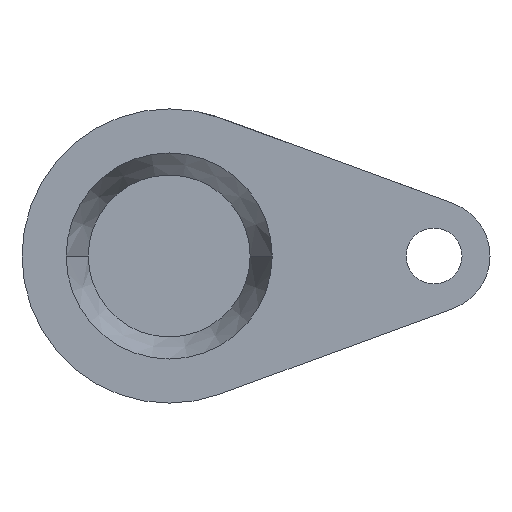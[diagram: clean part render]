
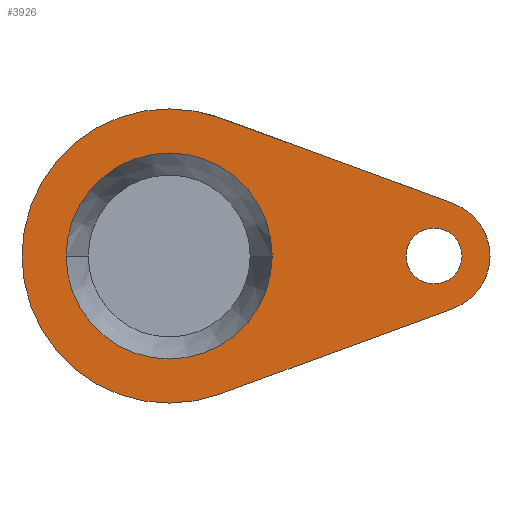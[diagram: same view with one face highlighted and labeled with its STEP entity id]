
A CAD part, front view. The second image highlights one B-rep face of the part: STEP entity #3926.
In plain terms, the highlighted planar face has unit normal (0, -1, 0).
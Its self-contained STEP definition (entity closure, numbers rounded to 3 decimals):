
#42 = EDGE_CURVE ( 'NONE', #4026, #1022, #3928, .T. ) ;
#179 = EDGE_CURVE ( 'NONE', #1838, #1468, #3019, .T. ) ;
#205 = DIRECTION ( 'NONE',  ( 0., 1., 0. ) ) ;
#231 = CARTESIAN_POINT ( 'NONE',  ( -35., -33., 0. ) ) ;
#267 = CARTESIAN_POINT ( 'NONE',  ( 99.5, -33., 0. ) ) ;
#280 = VERTEX_POINT ( 'NONE', #4030 ) ;
#308 = ORIENTED_EDGE ( 'NONE', *, *, #2333, .F. ) ;
#379 = DIRECTION ( 'NONE',  ( -1., 0., 0. ) ) ;
#384 = AXIS2_PLACEMENT_3D ( 'NONE', #3542, #512, #1684 ) ;
#396 = EDGE_CURVE ( 'NONE', #1022, #2118, #2707, .T. ) ;
#418 = DIRECTION ( 'NONE',  ( -1., 0., 0. ) ) ;
#442 = CARTESIAN_POINT ( 'NONE',  ( 17.222, -33., 46.94 ) ) ;
#512 = DIRECTION ( 'NONE',  ( 0., 1., 0. ) ) ;
#696 = CIRCLE ( 'NONE', #1249, 50. ) ;
#769 = ORIENTED_EDGE ( 'NONE', *, *, #1006, .T. ) ;
#785 = DIRECTION ( 'NONE',  ( 0., 1., 0. ) ) ;
#926 = EDGE_LOOP ( 'NONE', ( #951, #308, #4242, #3084, #4090 ) ) ;
#951 = ORIENTED_EDGE ( 'NONE', *, *, #3503, .T. ) ;
#999 = DIRECTION ( 'NONE',  ( -1., 0., 0. ) ) ;
#1006 = EDGE_CURVE ( 'NONE', #4704, #1281, #1914, .T. ) ;
#1022 = VERTEX_POINT ( 'NONE', #1669 ) ;
#1249 = AXIS2_PLACEMENT_3D ( 'NONE', #3037, #2367, #3854 ) ;
#1281 = VERTEX_POINT ( 'NONE', #1791 ) ;
#1353 = DIRECTION ( 'NONE',  ( -0.939, 0., -0.344 ) ) ;
#1398 = CIRCLE ( 'NONE', #384, 19. ) ;
#1468 = VERTEX_POINT ( 'NONE', #231 ) ;
#1514 = CARTESIAN_POINT ( 'NONE',  ( 35., -33., 0. ) ) ;
#1611 = EDGE_CURVE ( 'NONE', #1468, #1838, #1648, .T. ) ;
#1648 = CIRCLE ( 'NONE', #4375, 35. ) ;
#1669 = CARTESIAN_POINT ( 'NONE',  ( 96.544, -33., 17.837 ) ) ;
#1684 = DIRECTION ( 'NONE',  ( -1., 0., 0. ) ) ;
#1791 = CARTESIAN_POINT ( 'NONE',  ( 80.5, -33., 0. ) ) ;
#1838 = VERTEX_POINT ( 'NONE', #1514 ) ;
#1841 = AXIS2_PLACEMENT_3D ( 'NONE', #1843, #3982, #4718 ) ;
#1843 = CARTESIAN_POINT ( 'NONE',  ( 50., -33., 0. ) ) ;
#1914 = CIRCLE ( 'NONE', #3924, 9.5 ) ;
#2024 = AXIS2_PLACEMENT_3D ( 'NONE', #4811, #785, #379 ) ;
#2025 = EDGE_LOOP ( 'NONE', ( #2630, #4658 ) ) ;
#2077 = ORIENTED_EDGE ( 'NONE', *, *, #2908, .T. ) ;
#2103 = FACE_BOUND ( 'NONE', #4227, .T. ) ;
#2118 = VERTEX_POINT ( 'NONE', #3547 ) ;
#2142 = AXIS2_PLACEMENT_3D ( 'NONE', #4458, #4853, #418 ) ;
#2333 = EDGE_CURVE ( 'NONE', #3104, #280, #4697, .T. ) ;
#2367 = DIRECTION ( 'NONE',  ( 0., -1., 0. ) ) ;
#2392 = CARTESIAN_POINT ( 'NONE',  ( 0., -33., 0. ) ) ;
#2409 = CARTESIAN_POINT ( 'NONE',  ( 17.222, -33., -46.94 ) ) ;
#2410 = DIRECTION ( 'NONE',  ( 0., 1., 0. ) ) ;
#2423 = DIRECTION ( 'NONE',  ( 0.939, 0., -0.344 ) ) ;
#2502 = FACE_BOUND ( 'NONE', #2025, .T. ) ;
#2595 = VECTOR ( 'NONE', #1353, 1000. ) ;
#2630 = ORIENTED_EDGE ( 'NONE', *, *, #179, .T. ) ;
#2707 = CIRCLE ( 'NONE', #2142, 19. ) ;
#2735 = CIRCLE ( 'NONE', #2024, 9.5 ) ;
#2907 = CARTESIAN_POINT ( 'NONE',  ( 0., -33., 0. ) ) ;
#2908 = EDGE_CURVE ( 'NONE', #1281, #4704, #2735, .T. ) ;
#2917 = CARTESIAN_POINT ( 'NONE',  ( 96.544, -33., -17.837 ) ) ;
#3019 = CIRCLE ( 'NONE', #4570, 35. ) ;
#3037 = CARTESIAN_POINT ( 'NONE',  ( 0., -33., 0. ) ) ;
#3084 = ORIENTED_EDGE ( 'NONE', *, *, #396, .F. ) ;
#3104 = VERTEX_POINT ( 'NONE', #2917 ) ;
#3190 = EDGE_CURVE ( 'NONE', #2118, #3104, #1398, .T. ) ;
#3278 = PLANE ( 'NONE',  #1841 ) ;
#3406 = DIRECTION ( 'NONE',  ( -1., 0., 0. ) ) ;
#3484 = DIRECTION ( 'NONE',  ( 0., 1., 0. ) ) ;
#3503 = EDGE_CURVE ( 'NONE', #4026, #280, #696, .T. ) ;
#3504 = CARTESIAN_POINT ( 'NONE',  ( 90., -33., 0. ) ) ;
#3542 = CARTESIAN_POINT ( 'NONE',  ( 90., -33., 0. ) ) ;
#3547 = CARTESIAN_POINT ( 'NONE',  ( 109., -33., 0. ) ) ;
#3854 = DIRECTION ( 'NONE',  ( 1., 0., 0. ) ) ;
#3924 = AXIS2_PLACEMENT_3D ( 'NONE', #3504, #2410, #3406 ) ;
#3926 = ADVANCED_FACE ( 'NONE', ( #2502, #2103, #4009 ), #3278, .T. ) ;
#3928 = LINE ( 'NONE', #4229, #4643 ) ;
#3982 = DIRECTION ( 'NONE',  ( 0., -1., 0. ) ) ;
#4009 = FACE_OUTER_BOUND ( 'NONE', #926, .T. ) ;
#4026 = VERTEX_POINT ( 'NONE', #442 ) ;
#4030 = CARTESIAN_POINT ( 'NONE',  ( 17.222, -33., -46.94 ) ) ;
#4090 = ORIENTED_EDGE ( 'NONE', *, *, #42, .F. ) ;
#4200 = DIRECTION ( 'NONE',  ( -1., 0., 0. ) ) ;
#4227 = EDGE_LOOP ( 'NONE', ( #2077, #769 ) ) ;
#4229 = CARTESIAN_POINT ( 'NONE',  ( 17.222, -33., 46.94 ) ) ;
#4242 = ORIENTED_EDGE ( 'NONE', *, *, #3190, .F. ) ;
#4375 = AXIS2_PLACEMENT_3D ( 'NONE', #2392, #3484, #4200 ) ;
#4458 = CARTESIAN_POINT ( 'NONE',  ( 90., -33., 0. ) ) ;
#4570 = AXIS2_PLACEMENT_3D ( 'NONE', #2907, #205, #999 ) ;
#4643 = VECTOR ( 'NONE', #2423, 1000. ) ;
#4658 = ORIENTED_EDGE ( 'NONE', *, *, #1611, .T. ) ;
#4697 = LINE ( 'NONE', #2409, #2595 ) ;
#4704 = VERTEX_POINT ( 'NONE', #267 ) ;
#4718 = DIRECTION ( 'NONE',  ( 1., 0., 0. ) ) ;
#4811 = CARTESIAN_POINT ( 'NONE',  ( 90., -33., 0. ) ) ;
#4853 = DIRECTION ( 'NONE',  ( 0., 1., 0. ) ) ;
